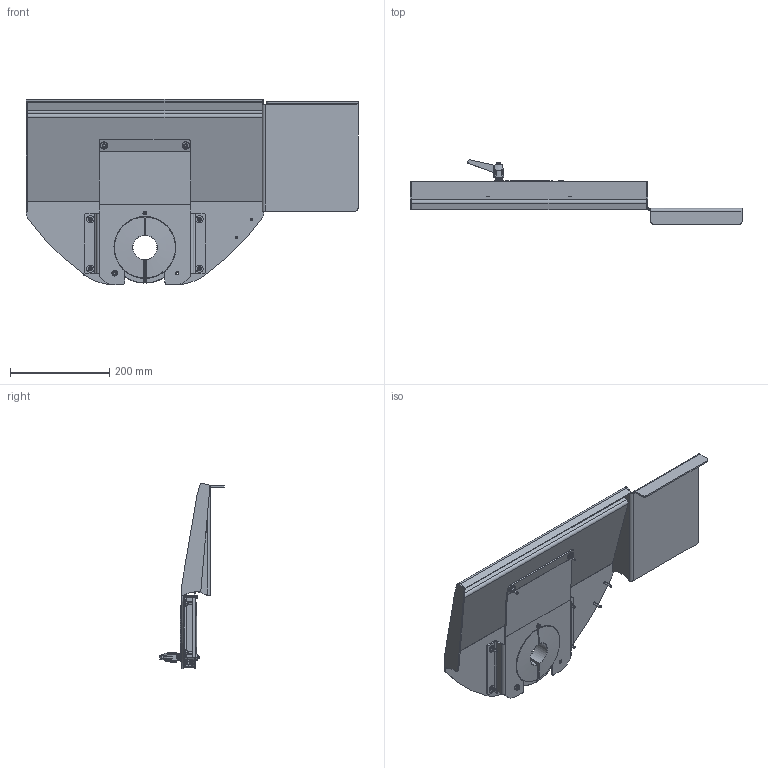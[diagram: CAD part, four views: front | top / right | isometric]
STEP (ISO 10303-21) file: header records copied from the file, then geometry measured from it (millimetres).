
FILE_DESCRIPTION((''),'2;1');
FILE_NAME('9806000114_ASM','2023-03-23T11:37:46',('Stephanie.Hoppe'),(''),'CREO PARAMETRIC BY PTC INC, 2022124','CREO PARAMETRIC BY PTC INC, 2022124','');
FILE_SCHEMA(('AUTOMOTIVE_DESIGN { 1 0 10303 214 1 1 1 1 }'));
Products named in the file (24): 9371086000; 9281908000; 9261635000; 9806000075_ASM; 9514172000_01; KVT_FH_M5_22; 9514172000_01_ASM; 9514172000_02; 9514172000_03; 9514172000_ASM; 9514173000; KVT-EINPRESSMUTTERM4; KVT-EINPRESSMUTTERM6; 9514173000_ASM; 9262009000; 9281801000; 9262024000; 9251143000; 9261384000; 9502370000; 9261367000; 9231837000; 9806000116_ASM; 9806000114_ASM
Assembly tree (43 placements, depth 5):
  9806000114_ASM
    9806000075_ASM
      9371086000  x2
      9281908000  x2
      9261635000  x2
    9806000116_ASM
      9514172000_ASM
        9514172000_01_ASM
          9514172000_01
          KVT_FH_M5_22  x8
        9514172000_02
        9514172000_03
      9514173000_ASM
        9514173000
        KVT-EINPRESSMUTTERM4
        KVT-EINPRESSMUTTERM6
      9262009000  x6
      9281801000  x6
      9262024000
      9251143000
      9261384000
      9502370000
      9261367000
      9231837000
Bounding box: 670 x 130.7 x 373.87 mm (x, y, z)
Volume: 1121295.5 mm3; surface area: 689242.4 mm2
Topology: 38 solids, 61 shells, 1863 faces, 4304 edges, 2632 vertices
Faces by surface type: cylinder 606, plane 453, bspline 236, cone 234, torus 174, sphere 160
Entity records: 67020 total; most frequent: CARTESIAN_POINT 16637, DIRECTION 5983, ORIENTED_EDGE 4812, PRESENTATION_STYLE_ASSIGNMENT 3849, STYLED_ITEM 3838, CURVE_STYLE 2792, EDGE_CURVE 2418, AXIS2_PLACEMENT_3D 2368
